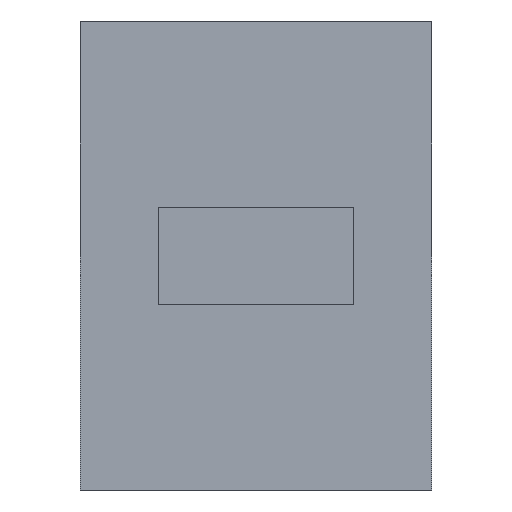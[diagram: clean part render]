
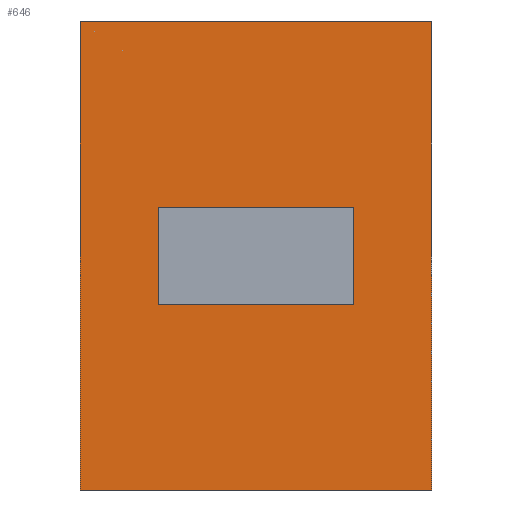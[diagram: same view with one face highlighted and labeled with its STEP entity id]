
A CAD part, left-side view. The second image highlights one B-rep face of the part: STEP entity #646.
In plain terms, the highlighted planar face has unit normal (-1, 0, 0).
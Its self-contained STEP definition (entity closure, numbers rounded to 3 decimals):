
#19 = CARTESIAN_POINT ( 'NONE',  ( -11.5, -9., -12. ) ) ;
#34 = DIRECTION ( 'NONE',  ( 0., -1., 0. ) ) ;
#42 = CARTESIAN_POINT ( 'NONE',  ( -11.5, -5., 2.5 ) ) ;
#43 = CARTESIAN_POINT ( 'NONE',  ( -11.5, 9., 12. ) ) ;
#54 = EDGE_CURVE ( 'NONE', #574, #1066, #275, .T. ) ;
#61 = EDGE_CURVE ( 'NONE', #244, #716, #961, .T. ) ;
#82 = DIRECTION ( 'NONE',  ( 0., 0., -1. ) ) ;
#92 = CARTESIAN_POINT ( 'NONE',  ( -11.5, 9., 12. ) ) ;
#116 = VECTOR ( 'NONE', #176, 1000. ) ;
#125 = CARTESIAN_POINT ( 'NONE',  ( -11.5, 9., -12. ) ) ;
#134 = PLANE ( 'NONE',  #866 ) ;
#159 = DIRECTION ( 'NONE',  ( 0., 0., 1. ) ) ;
#173 = EDGE_LOOP ( 'NONE', ( #993, #836, #210, #317 ) ) ;
#174 = CARTESIAN_POINT ( 'NONE',  ( -11.5, 5., -2.5 ) ) ;
#176 = DIRECTION ( 'NONE',  ( 0., 0., -1. ) ) ;
#210 = ORIENTED_EDGE ( 'NONE', *, *, #61, .F. ) ;
#220 = LINE ( 'NONE', #125, #808 ) ;
#225 = VERTEX_POINT ( 'NONE', #19 ) ;
#244 = VERTEX_POINT ( 'NONE', #890 ) ;
#254 = VERTEX_POINT ( 'NONE', #786 ) ;
#255 = CARTESIAN_POINT ( 'NONE',  ( -11.5, -5., -2.5 ) ) ;
#268 = CARTESIAN_POINT ( 'NONE',  ( -11.5, 5., -2.5 ) ) ;
#275 = LINE ( 'NONE', #174, #691 ) ;
#279 = CARTESIAN_POINT ( 'NONE',  ( -11.5, -9., 12. ) ) ;
#289 = ORIENTED_EDGE ( 'NONE', *, *, #54, .F. ) ;
#317 = ORIENTED_EDGE ( 'NONE', *, *, #855, .T. ) ;
#321 = LINE ( 'NONE', #92, #927 ) ;
#366 = EDGE_CURVE ( 'NONE', #254, #782, #385, .T. ) ;
#385 = LINE ( 'NONE', #255, #1036 ) ;
#410 = LINE ( 'NONE', #279, #116 ) ;
#414 = EDGE_CURVE ( 'NONE', #1066, #254, #822, .T. ) ;
#479 = EDGE_CURVE ( 'NONE', #716, #225, #410, .T. ) ;
#520 = EDGE_CURVE ( 'NONE', #580, #225, #220, .T. ) ;
#526 = CARTESIAN_POINT ( 'NONE',  ( -11.5, -9., 12. ) ) ;
#574 = VERTEX_POINT ( 'NONE', #752 ) ;
#580 = VERTEX_POINT ( 'NONE', #637 ) ;
#587 = DIRECTION ( 'NONE',  ( 0., -1., 0. ) ) ;
#588 = EDGE_CURVE ( 'NONE', #782, #574, #937, .T. ) ;
#601 = ORIENTED_EDGE ( 'NONE', *, *, #588, .F. ) ;
#631 = ORIENTED_EDGE ( 'NONE', *, *, #366, .F. ) ;
#637 = CARTESIAN_POINT ( 'NONE',  ( -11.5, 9., -12. ) ) ;
#646 = ADVANCED_FACE ( 'NONE', ( #759, #813 ), #134, .F. ) ;
#655 = VECTOR ( 'NONE', #587, 1000. ) ;
#691 = VECTOR ( 'NONE', #82, 1000. ) ;
#692 = VECTOR ( 'NONE', #725, 1000. ) ;
#711 = CARTESIAN_POINT ( 'NONE',  ( -11.5, 5., -2.5 ) ) ;
#716 = VERTEX_POINT ( 'NONE', #526 ) ;
#725 = DIRECTION ( 'NONE',  ( 0., 1., 0. ) ) ;
#750 = DIRECTION ( 'NONE',  ( 0., -1., 0. ) ) ;
#752 = CARTESIAN_POINT ( 'NONE',  ( -11.5, 5., 2.5 ) ) ;
#759 = FACE_BOUND ( 'NONE', #1037, .T. ) ;
#782 = VERTEX_POINT ( 'NONE', #42 ) ;
#786 = CARTESIAN_POINT ( 'NONE',  ( -11.5, -5., -2.5 ) ) ;
#808 = VECTOR ( 'NONE', #34, 1000. ) ;
#813 = FACE_OUTER_BOUND ( 'NONE', #173, .T. ) ;
#821 = ORIENTED_EDGE ( 'NONE', *, *, #414, .F. ) ;
#822 = LINE ( 'NONE', #711, #655 ) ;
#834 = CARTESIAN_POINT ( 'NONE',  ( -11.5, 5., 2.5 ) ) ;
#836 = ORIENTED_EDGE ( 'NONE', *, *, #479, .F. ) ;
#855 = EDGE_CURVE ( 'NONE', #244, #580, #321, .T. ) ;
#856 = CARTESIAN_POINT ( 'NONE',  ( -11.5, 9., 12. ) ) ;
#857 = VECTOR ( 'NONE', #750, 1000. ) ;
#866 = AXIS2_PLACEMENT_3D ( 'NONE', #43, #1023, #920 ) ;
#890 = CARTESIAN_POINT ( 'NONE',  ( -11.5, 9., 12. ) ) ;
#920 = DIRECTION ( 'NONE',  ( 0., 1., 0. ) ) ;
#927 = VECTOR ( 'NONE', #1069, 1000. ) ;
#937 = LINE ( 'NONE', #834, #692 ) ;
#961 = LINE ( 'NONE', #856, #857 ) ;
#993 = ORIENTED_EDGE ( 'NONE', *, *, #520, .T. ) ;
#1023 = DIRECTION ( 'NONE',  ( 1., 0., 0. ) ) ;
#1036 = VECTOR ( 'NONE', #159, 1000. ) ;
#1037 = EDGE_LOOP ( 'NONE', ( #631, #821, #289, #601 ) ) ;
#1066 = VERTEX_POINT ( 'NONE', #268 ) ;
#1069 = DIRECTION ( 'NONE',  ( 0., 0., -1. ) ) ;
